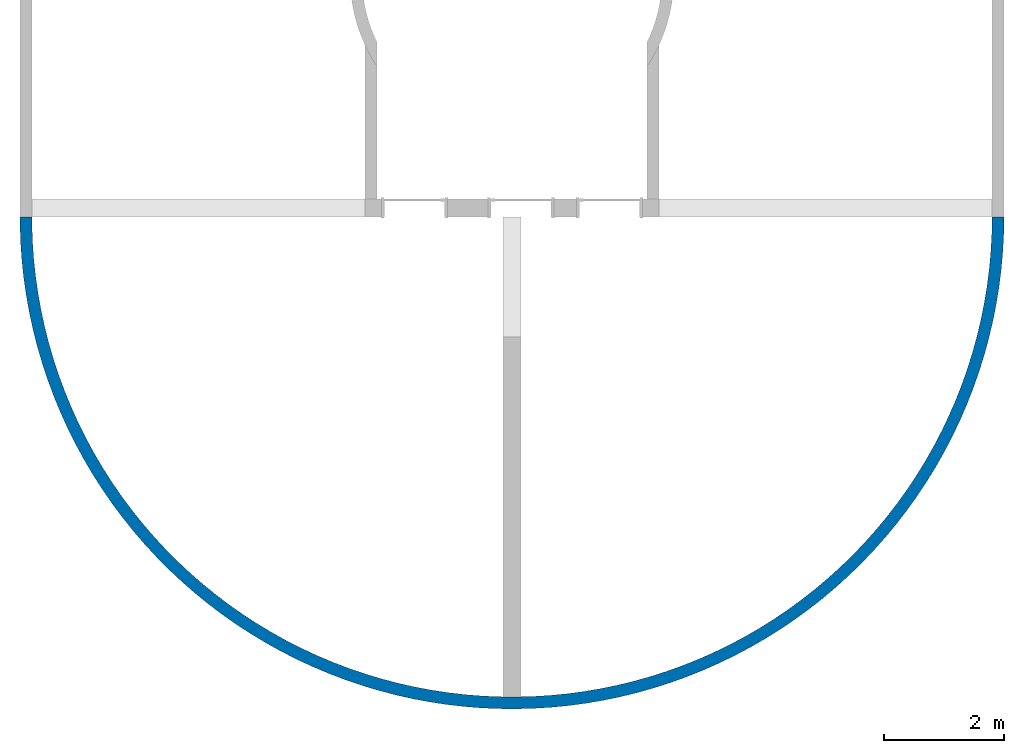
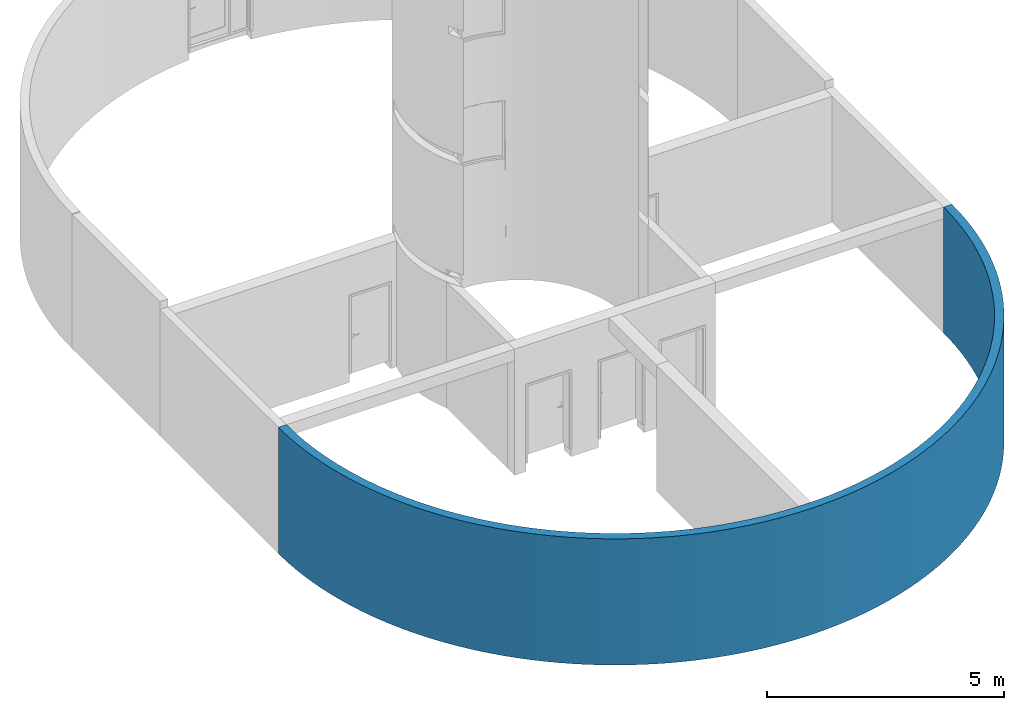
# One storey, part 3 of 8: 1 wall.
"""IFC4 building model written with IfcOpenShell, lengths in millimetres."""

from ifc_helpers import new_model, entity, si_unit, converted_unit, derived_unit, direction, frame, origin_with_axes, place, context, subcontext, project, spatial, polygons, material, constituent, constituent_set, type_object, element, save


model = new_model("IFC4")

# Units and contexts
model_context = context("Model", 3, precision=0.01, world=origin_with_axes(), true_north=direction((0.0, 1.0)))
body_context = subcontext(model_context, "Body", "Model", "MODEL_VIEW")
ifc_project = project(units=[si_unit("LENGTHUNIT", "METRE", prefix="MILLI"), si_unit("AREAUNIT", "SQUARE_METRE"), si_unit("VOLUMEUNIT", "CUBIC_METRE"), converted_unit("PLANEANGLEUNIT", "DEGREE", entity("IfcPlaneAngleMeasure", 0.0174532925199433), si_unit("PLANEANGLEUNIT", "RADIAN"), dimensions=[0, 0, 0, 0, 0, 0, 0]), converted_unit("TIMEUNIT", "Year", entity("IfcTimeMeasure", 31557600.0), si_unit("TIMEUNIT", "SECOND"), dimensions=[0, 0, 1, 0, 0, 0, 0]), si_unit("MASSUNIT", "GRAM", prefix="KILO"), si_unit("THERMODYNAMICTEMPERATUREUNIT", "DEGREE_CELSIUS"), si_unit("LUMINOUSINTENSITYUNIT", "LUMEN"), si_unit("ENERGYUNIT", "JOULE", prefix="MEGA"), derived_unit("THERMALCONDUCTANCEUNIT", [(si_unit("POWERUNIT", "WATT"), 1), (si_unit("LENGTHUNIT", "METRE"), -1), (si_unit("THERMODYNAMICTEMPERATUREUNIT", "KELVIN"), -1)]), derived_unit("SPECIFICHEATCAPACITYUNIT", [(si_unit("ENERGYUNIT", "JOULE"), 1), (si_unit("MASSUNIT", "GRAM", prefix="KILO"), -1), (si_unit("THERMODYNAMICTEMPERATUREUNIT", "KELVIN"), -1)]), derived_unit("MASSDENSITYUNIT", [(si_unit("MASSUNIT", "GRAM", prefix="KILO"), 1), (si_unit("VOLUMEUNIT", "CUBIC_METRE"), -1)])], contexts=[model_context])

# Site, building, storey
site_placement = place(None, origin_with_axes())
site = spatial("IfcSite", under=ifc_project, at=site_placement, Name="Exteriér", CompositionType="ELEMENT")
building_placement = place(site_placement, origin_with_axes())
building = spatial("IfcBuilding", under=site, at=building_placement, Name="Univerzitní lezecké centrum", CompositionType="ELEMENT")
storey_placement = place(building_placement, frame((0.0, 0.0, -3350.0), z_axis=(0.0, 0.0, 1.0), x_axis=(1.0, 0.0, 0.0)))
storey = spatial("IfcBuildingStorey", under=building, at=storey_placement, Name="1.PP", CompositionType="ELEMENT", Elevation=-3350.0)

# Wall
ifc_material = material(Name="Beton vyztužený - vnější svislé kce")
ifc_constituent = constituent(ifc_material, Name="Beton vyztužený - vnější svislé kce")
ifc_constituent_set = constituent_set(constituents=[ifc_constituent], Name="!Vnější betonová stěna 200 mm")
wall_type = type_object("IfcWallType", Name="!Vnější betonová stěna 200 mm 200", PredefinedType="NOTDEFINED")
wall_placement = place(storey_placement, frame((-5550.148351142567, -299.999999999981, -220.0000000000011), z_axis=(0.0, 0.0, 1.0), x_axis=(0.0, -1.0, 0.0)))
element("IfcWall", 1, at=wall_placement, inside=storey, type_object=wall_type, material=ifc_constituent_set, Name="St02", PredefinedType="NOTDEFINED", context=body_context, shape_type="Tessellation", body=[
    polygons([(0.0, -199.9999999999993, 0.0), (145.5579959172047, -199.9999999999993, 0.0), (145.5579959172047, -199.9999999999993, 3250.000000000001), (0.0, -199.9999999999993, 3250.000000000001), (0.0, 0.0, 0.0), (142.0078008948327, 0.0, 0.0), (436.4905859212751, -189.6680701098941, 0.0), (436.4905859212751, -189.6680701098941, 3250.000000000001), (142.0078008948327, 0.0, 3250.000000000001), (0.0, 0.0, 3250.000000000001), (425.844474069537, 10.07993160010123, 0.0), (726.8732015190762, -169.0172284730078, 0.0), (726.8732015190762, -169.0172284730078, 3250.000000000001), (425.844474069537, 10.07993160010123, 3250.000000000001), (709.1445868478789, 30.227094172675, 0.0), (1016.339963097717, -138.0734949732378, 0.0), (1016.339963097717, -138.0734949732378, 3250.000000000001), (709.1445868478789, 30.227094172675, 3250.000000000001), (991.5511835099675, 60.41610246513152, 0.0), (1304.52614501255, -96.87585845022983, 0.0), (1304.52614501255, -96.87585845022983, 3250.000000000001), (991.5511835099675, 60.41610246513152, 3250.000000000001), (1272.708434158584, 100.6089185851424, 0.0), (1591.068635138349, -45.47622757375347, 0.0), (1591.068635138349, -45.47622757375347, 3250.000000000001), (1272.708434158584, 100.6089185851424, 3250.000000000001), (1552.262083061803, 150.7548999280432, 0.0), (1875.606392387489, 16.06063456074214, 0.0), (1875.606392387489, 16.06063456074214, 3250.000000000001), (1552.262083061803, 150.7548999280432, 3250.000000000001), (1829.859895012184, 210.7908629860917, 0.0), (2157.780901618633, 87.65719203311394, 0.0), (2157.780901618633, 87.65719203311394, 3250.000000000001), (1829.859895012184, 210.7908629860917, 3250.000000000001), (2105.152099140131, 280.6411629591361, 0.0), (2437.236625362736, 169.2232337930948, 0.0), (2437.236625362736, 169.2232337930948, 3250.000000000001), (2105.152099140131, 280.6411629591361, 3250.000000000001), (2377.791829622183, 360.2177890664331, 0.0), (2713.621451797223, 260.6559873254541, 0.0), (2713.621451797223, 260.6559873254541, 3250.000000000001), (2377.791829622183, 360.2177890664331, 3250.000000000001), (2647.435562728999, 449.4204754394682, 0.0), (2986.587138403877, 361.8402481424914, 0.0), (2986.587138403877, 361.8402481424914, 3250.000000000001), (2647.435562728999, 449.4204754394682, 3250.000000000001), (2913.743549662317, 548.1368274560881, 0.0), (3255.789750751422, 472.6485249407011, 0.0), (3255.789750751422, 472.6485249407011, 3250.000000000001), (2913.743549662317, 548.1368274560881, 3250.000000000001), (3176.380244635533, 656.2424633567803, 0.0), (3520.89009584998, 592.9412002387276, 0.0), (3520.89009584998, 592.9412002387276, 3250.000000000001), (3176.380244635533, 656.2424633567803, 3250.000000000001), (3435.014727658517, 773.6011709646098, 0.0), (3781.554149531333, 722.5667062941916, 0.0), (3781.554149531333, 722.5667062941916, 3250.000000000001), (3435.014727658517, 773.6011709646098, 3250.000000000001), (3689.321121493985, 900.065079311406, 0.0), (4037.453477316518, 861.3617160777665, 0.0), (4037.453477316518, 861.3617160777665, 3250.000000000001), (3689.321121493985, 900.065079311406, 3250.000000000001), (3938.979002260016, 1035.474844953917, 0.0), (4288.265648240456, 1009.151349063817, 0.0), (4288.265648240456, 1009.151349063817, 3250.000000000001), (3938.979002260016, 1035.474844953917, 3250.000000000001), (4183.673803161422, 1179.659852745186, 0.0), (4533.674641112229, 1165.74939157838, 0.0), (4533.674641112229, 1165.74939157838, 3250.000000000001), (4183.673803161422, 1179.659852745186, 3250.000000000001), (4423.0972108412, 1332.438430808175, 0.0), (4773.371242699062, 1330.958531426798, 0.0), (4773.371242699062, 1330.958531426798, 3250.000000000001), (4423.0972108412, 1332.438430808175, 3250.000000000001), (4656.947553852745, 1493.618079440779, 0.0), (5007.053437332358, 1504.5706065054, 0.0), (5007.053437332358, 1504.5706065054, 3250.000000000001), (4656.947553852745, 1493.618079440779, 3250.000000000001), (4884.930182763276, 1662.995713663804, 0.0), (5234.426787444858, 1686.366867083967, 0.0), (5234.426787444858, 1686.366867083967, 3250.000000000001), (4884.930182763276, 1662.995713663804, 3250.000000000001), (5106.757841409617, 1840.357919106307, 0.0), (5455.204804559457, 1876.118251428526, 0.0), (5455.204804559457, 1876.118251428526, 3250.000000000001), (5106.757841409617, 1840.357919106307, 3250.000000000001), (5322.151028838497, 2025.481220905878, 0.0), (5669.109310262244, 2073.585674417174, 0.0), (5669.109310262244, 2073.585674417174, 3250.000000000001), (5322.151028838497, 2025.481220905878, 3250.000000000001), (5530.83835147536, 2218.132365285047, 0.0), (5875.870786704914, 2278.520328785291, 0.0), (5875.870786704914, 2278.520328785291, 3250.000000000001), (5530.83835147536, 2218.132365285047, 3250.000000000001), (5732.556865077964, 2418.068613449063, 0.0), (6075.228716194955, 2490.663998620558, 0.0), (6075.228716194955, 2490.663998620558, 3250.000000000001), (5732.556865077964, 2418.068613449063, 3250.000000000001), (5927.052406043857, 2625.03804743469, 0.0), (6266.931909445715, 2709.749384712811, 0.0), (6266.931909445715, 2709.749384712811, 3250.000000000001), (5927.052406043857, 2625.03804743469, 3250.000000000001), (6114.079911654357, 2838.779887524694, 0.0), (6450.738822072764, 2935.500441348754, 0.0), (6450.738822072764, 2935.500441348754, 3250.000000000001), (6114.079911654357, 2838.779887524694, 3250.000000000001), (6293.403728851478, 3059.024820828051, 0.0), (6626.417858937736, 3167.632724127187, 0.0), (6626.417858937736, 3167.632724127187, 3250.000000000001), (6293.403728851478, 3059.024820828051, 3250.000000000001), (6464.797911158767, 3285.495340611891, 0.0), (6793.747665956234, 3405.853748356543, 0.0), (6793.747665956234, 3405.853748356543, 3250.000000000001), (6464.797911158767, 3285.495340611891, 3250.000000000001), (6628.046503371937, 3517.906095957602, 0.0), (6952.517409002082, 3649.863357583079, 0.0), (6952.517409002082, 3649.863357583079, 3250.000000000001), (6628.046503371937, 3517.906095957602, 3250.000000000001), (6782.943813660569, 3755.964251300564, 0.0), (7102.527039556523, 3899.354101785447, 0.0), (7102.527039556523, 3899.354101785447, 3250.000000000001), (6782.943813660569, 3755.964251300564, 3250.000000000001), (6929.294672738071, 3999.369855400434, 0.0), (7243.587546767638, 4154.011624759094, 0.0), (7243.587546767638, 4154.011624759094, 3250.000000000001), (6929.294672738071, 3999.369855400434, 3250.000000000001), (7066.914679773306, 4247.816219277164, 0.0), (7375.521195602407, 4413.515060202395, 0.0), (7375.521195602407, 4413.515060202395, 3250.000000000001), (7066.914679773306, 4247.816219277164, 3250.000000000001), (7195.630434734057, 4500.990302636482, 0.0), (7498.161750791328, 4677.53743600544, 0.0), (7498.161750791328, 4677.53743600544, 3250.000000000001), (7195.630434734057, 4500.990302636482, 3250.000000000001), (7315.27975686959, 4758.573108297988, 0.0), (7611.354686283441, 4945.746086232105, 0.0), (7611.354686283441, 4945.746086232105, 3250.000000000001), (7315.27975686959, 4758.573108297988, 3250.000000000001), (7425.711889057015, 5020.240084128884, 0.0), (7714.957379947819, 5217.803070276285, 0.0), (7714.957379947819, 5217.803070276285, 3250.000000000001), (7425.711889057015, 5020.240084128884, 3250.000000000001), (7526.787687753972, 5285.661531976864, 0.0), (7808.839293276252, 5493.365598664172, 0.0), (7808.839293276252, 5493.365598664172, 3250.000000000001), (7526.787687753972, 5285.661531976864, 3250.000000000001), (7618.379798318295, 5554.503023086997, 0.0), (7892.882135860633, 5772.086464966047, 0.0), (7892.882135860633, 5772.086464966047, 3250.000000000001), (7618.379798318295, 5554.503023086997, 3250.000000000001), (7700.372815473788, 5826.425819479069, 0.0), (7966.980014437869, 6053.614483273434, 0.0), (7966.980014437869, 6053.614483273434, 3250.000000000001), (7700.372815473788, 5826.425819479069, 3250.000000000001), (7772.663428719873, 6101.087300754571, 0.0), (8031.039566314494, 6337.594930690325, 0.0), (8031.039566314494, 6337.594930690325, 3250.000000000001), (7772.663428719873, 6101.087300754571, 3250.000000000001), (7835.160552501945, 6378.141395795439, 0.0), (8084.980077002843, 6623.669994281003, 0.0), (8084.980077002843, 6623.669994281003, 3250.000000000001), (7835.160552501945, 6378.141395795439, 3250.000000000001), (7887.785440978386, 6657.239018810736, 0.0), (8128.733581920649, 6911.479221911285, 0.0), (8128.733581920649, 6911.479221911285, 3250.000000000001), (7887.785440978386, 6657.239018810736, 3250.000000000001), (7930.471787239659, 6938.02850918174, 0.0), (8162.244952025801, 7200.659976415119, 0.0), (8162.244952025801, 7200.659976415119, 3250.000000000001), (7930.471787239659, 6938.02850918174, 3250.000000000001), (7963.165806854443, 7220.156074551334, 0.0), (8185.471963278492, 7490.847892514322, 0.0), (8185.471963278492, 7490.847892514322, 3250.000000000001), (7963.165806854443, 7220.156074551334, 3250.000000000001), (7985.826305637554, 7503.266236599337, 0.0), (8198.385349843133, 7781.677335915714, 0.0), (8198.385349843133, 7781.677335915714, 3250.000000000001), (7985.826305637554, 7503.266236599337, 3250.000000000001), (7998.424731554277, 7787.002278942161, 0.0), (8200.968840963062, 8072.781864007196, 0.0), (8200.968840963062, 8072.781864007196, 3250.000000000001), (7998.424731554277, 7787.002278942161, 3250.000000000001), (8000.945210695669, 8071.006696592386, 0.0), (8193.219181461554, 8363.794687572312, 0.0), (8193.219181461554, 8363.794687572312, 3250.000000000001), (8000.945210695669, 8071.006696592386, 3250.000000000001), (7993.384567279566, 8354.921646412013, 0.0), (8175.146135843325, 8654.34913294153, 0.0), (8175.146135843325, 8654.34913294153, 3250.000000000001), (7993.384567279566, 8354.921646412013, 3250.000000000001), (7975.752327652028, 8638.389397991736, 0.0), (8146.77247599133, 8944.079103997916, 0.0), (8146.77247599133, 8944.079103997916, 3250.000000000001), (7975.752327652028, 8638.389397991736, 3250.000000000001), (7948.070708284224, 8921.05278438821, 0.0), (8108.133952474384, 9232.619543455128, 0.0), (8108.133952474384, 9232.619543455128, 3250.000000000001), (7948.070708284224, 8921.05278438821, 3250.000000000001), (7910.374587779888, 9202.555652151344, 0.0), (8059.279249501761, 9519.606892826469, 0.0), (8059.279249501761, 9519.606892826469, 3250.000000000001), (7910.374587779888, 9202.555652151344, 3250.000000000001), (7862.71146292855, 9482.543310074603, 0.0), (8000.269923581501, 9804.679550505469, 0.0), (8000.269923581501, 9804.679550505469, 3250.000000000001), (7862.71146292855, 9482.543310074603, 3250.000000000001), (7805.141388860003, 9760.662976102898, 0.0), (7931.180325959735, 10087.47832738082, 0.0), (7931.180325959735, 10087.47832738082, 3250.000000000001), (7805.141388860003, 9760.662976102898, 3250.000000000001), (7737.736903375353, 10036.56422183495, 0.0), (7852.097508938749, 10367.64689941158, 0.0), (7852.097508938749, 10367.64689941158, 3250.000000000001), (7737.736903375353, 10036.56422183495, 3250.000000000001), (7660.582935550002, 10309.89941406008, 0.0), (7763.121116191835, 10644.83225659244, 0.0), (7763.121116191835, 10644.83225659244, 3250.000000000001), (7660.582935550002, 10309.89941406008, 3250.000000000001), (7573.776698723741, 10580.32415277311, 0.0), (7664.363257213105, 10918.68514774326, 0.0), (7664.363257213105, 10918.68514774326, 3250.000000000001), (7573.776698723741, 10580.32415277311, 3250.000000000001), (7477.427568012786, 10847.49770511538, 0.0), (7555.948366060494, 11188.86052056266, 0.0), (7555.948366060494, 11188.86052056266, 3250.000000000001), (7477.427568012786, 10847.49770511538, 3250.000000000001), (7371.656942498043, 11111.08343469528, 0.0), (7438.013044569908, 11455.01795639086, 0.0), (7438.013044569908, 11455.01795639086, 3250.000000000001), (7371.656942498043, 11111.08343469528, 3250.000000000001), (7256.598092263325, 11370.74922574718, 0.0), (7310.70589023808, 11716.82209913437, 0.0), (7310.70589023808, 11716.82209913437, 3250.000000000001), (7256.598092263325, 11370.74922574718, 3250.000000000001), (7132.395990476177, 11626.16790159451, 0.0), (7174.187308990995, 11973.94307781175, 0.0), (7174.187308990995, 11973.94307781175, 3250.000000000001), (7132.395990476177, 11626.16790159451, 3250.000000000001), (6999.207130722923, 11877.01763688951, 0.0), (7028.629313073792, 12226.05692218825, 0.0), (7028.629313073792, 12226.05692218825, 3250.000000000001), (6999.207130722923, 11877.01763688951, 3250.000000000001), (6857.19932982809, 12122.98236311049, 0.0), (6874.215304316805, 12472.84597097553, 0.0), (6874.215304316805, 12472.84597097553, 3250.000000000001), (6857.19932982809, 12122.98236311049, 3250.000000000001), (6706.551516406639, 12363.75216680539, 0.0), (6711.139843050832, 12713.99927208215, 0.0), (6711.139843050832, 12713.99927208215, 3250.000000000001), (6706.551516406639, 12363.75216680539, 3250.000000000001), (6547.453505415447, 12599.02368008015, 0.0), (6539.608402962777, 12949.21297441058, 0.0), (6539.608402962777, 12949.21297441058, 3250.000000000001), (6547.453505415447, 12599.02368008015, 3250.000000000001), (6380.105758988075, 12828.50046283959, 0.0), (6359.837112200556, 13178.19071070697, 0.0), (6359.837112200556, 13178.19071070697, 3250.000000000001), (6380.105758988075, 12828.50046283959, 3250.000000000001), (6204.719133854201, 13051.89337629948, 0.0), (6172.052481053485, 13400.64397098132, 0.0), (6172.052481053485, 13400.64397098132, 3250.000000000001), (6204.719133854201, 13051.89337629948, 3250.000000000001), (6021.514615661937, 13268.92094729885, 0.0), (5976.49111655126, 13616.29246602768, 0.0), (5976.49111655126, 13616.29246602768, 3250.000000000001), (6021.514615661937, 13268.92094729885, 3250.000000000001), (5830.723040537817, 13479.30972295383, 0.0), (5773.399424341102, 13824.86448058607, 0.0), (5773.399424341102, 13824.86448058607, 3250.000000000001), (5830.723040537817, 13479.30972295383, 3250.000000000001), (5632.584804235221, 13682.79461520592, 0.0), (5563.033298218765, 14026.09721570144, 0.0), (5563.033298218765, 14026.09721570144, 3250.000000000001), (5632.584804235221, 13682.79461520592, 3250.000000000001), (5427.349559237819, 13879.11923483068, 0.0), (5345.657797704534, 14219.73711984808, 0.0), (5345.657797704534, 14219.73711984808, 3250.000000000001), (5427.349559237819, 13879.11923483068, 3250.000000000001), (5215.275900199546, 14068.03621448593, 0.0), (5121.546814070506, 14405.54020840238, 0.0), (5121.546814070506, 14405.54020840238, 3250.000000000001), (5215.275900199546, 14068.03621448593, 3250.000000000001), (4996.631038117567, 14249.30752039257, 0.0), (4890.982725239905, 14583.27237106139, 0.0), (4890.982725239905, 14583.27237106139, 3250.000000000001), (4996.631038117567, 14249.30752039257, 3250.000000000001), (4771.690463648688, 14422.70475225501, 0.0), (4654.256039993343, 14752.70966681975, 0.0), (4654.256039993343, 14752.70966681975, 3250.000000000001), (4771.690463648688, 14422.70475225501, 3250.000000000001), (4540.737599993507, 14588.00943104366, 0.0), (4411.665031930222, 14913.6386061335, 0.0), (4411.665031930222, 14913.6386061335, 3250.000000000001), (4540.737599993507, 14588.00943104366, 3250.000000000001), (4304.063445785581, 14745.01327427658, 0.0), (4163.515363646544, 15065.85641991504, 0.0), (4163.515363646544, 15065.85641991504, 3250.000000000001), (4304.063445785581, 14745.01327427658, 3250.000000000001), (4061.966208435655, 14893.5184584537, 0.0), (3910.119701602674, 15209.17131502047, 0.0), (3910.119701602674, 15209.17131502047, 3250.000000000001), (4061.966208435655, 14893.5184584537, 3250.000000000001), (3814.750928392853, 15033.33786831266, 0.0), (3651.797322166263, 15343.4027159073, 0.0), (3651.797322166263, 15343.4027159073, 3250.000000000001), (3814.750928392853, 15033.33786831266, 3250.000000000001), (3562.729094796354, 15164.29533259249, 0.0), (3388.873709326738, 15468.38149215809, 0.0), (3388.873709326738, 15468.38149215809, 3250.000000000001), (3562.729094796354, 15164.29533259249, 3250.000000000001), (3306.218253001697, 15286.22584600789, 0.0), (3121.680144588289, 15583.95017158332, 0.0), (3121.680144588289, 15583.95017158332, 3250.000000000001), (3306.218253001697, 15286.22584600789, 3250.000000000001), (3045.54160447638, 15398.97577715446, 0.0), (2850.553289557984, 15689.96313863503, 0.0), (2850.553289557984, 15689.96313863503, 3250.000000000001), (3045.54160447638, 15398.97577715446, 3250.000000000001), (2781.027599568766, 15502.40306208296, 0.0), (2575.834761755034, 15786.28681788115, 0.0), (2575.834761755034, 15786.28681788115, 3250.000000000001), (2781.027599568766, 15502.40306208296, 3250.000000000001), (2513.009523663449, 15596.37738329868, 0.0), (2297.870704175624, 15872.7998423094, 0.0), (2297.870704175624, 15872.7998423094, 3250.000000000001), (2513.009523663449, 15596.37738329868, 3250.000000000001), (2241.825077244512, 15680.78033396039, 0.0), (2017.011349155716, 15949.39320624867, 0.0), (2017.011349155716, 15949.39320624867, 3250.000000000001), (2241.825077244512, 15680.78033396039, 3250.000000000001), (1967.815950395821, 15755.50556707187, 0.0), (1733.610577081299, 16015.97040271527, 0.0), (1733.610577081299, 16015.97040271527, 3250.000000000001), (1967.815950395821, 15755.50556707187, 3250.000000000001), (1691.327392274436, 15820.45892947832, 0.0), (1448.025470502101, 16072.4475450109, 0.0), (1448.025470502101, 16072.4475450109, 3250.000000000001), (1691.327392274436, 15820.45892947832, 3250.000000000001), (1412.70777609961, 15875.55858049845, 0.0), (1160.615864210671, 16118.75347241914, 0.0), (1160.615864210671, 16118.75347241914, 3250.000000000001), (1412.70777609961, 15875.55858049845, 3250.000000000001), (1132.308160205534, 15920.73509504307, 0.0), (871.7438918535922, 16154.82983986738, 0.0), (871.7438918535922, 16154.82983986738, 3250.000000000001), (1132.308160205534, 15920.73509504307, 3250.000000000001), (850.4818457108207, 15955.93155109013, 0.0), (581.7735296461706, 16180.63119144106, 0.0), (581.7735296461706, 16180.63119144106, 3250.000000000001), (850.4818457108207, 15955.93155109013, 3250.000000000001), (567.5839313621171, 15981.10360140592, 0.0), (291.0701377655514, 16196.12501765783, 0.0), (291.0701377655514, 16196.12501765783, 3250.000000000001), (567.5839313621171, 15981.10360140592, 3250.000000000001), (283.9708661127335, 15996.21952942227, 0.0), (0.0, 16200.0, 0.0), (0.0, 16200.0, 3250.000000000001), (283.9708661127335, 15996.21952942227, 3250.000000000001), (0.0, 16000.0, 0.0), (0.0, 16000.0, 3250.000000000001)], [[[1, 2, 3, 4]], [[5, 6, 2, 1]], [[2, 7, 8, 3]], [[4, 3, 9, 10]], [[5, 1, 4, 10]], [[10, 9, 6, 5]], [[6, 11, 7, 2]], [[7, 12, 13, 8]], [[3, 8, 14, 9]], [[9, 14, 11, 6]], [[11, 15, 12, 7]], [[12, 16, 17, 13]], [[8, 13, 18, 14]], [[14, 18, 15, 11]], [[15, 19, 16, 12]], [[16, 20, 21, 17]], [[13, 17, 22, 18]], [[18, 22, 19, 15]], [[19, 23, 20, 16]], [[20, 24, 25, 21]], [[17, 21, 26, 22]], [[22, 26, 23, 19]], [[23, 27, 24, 20]], [[24, 28, 29, 25]], [[21, 25, 30, 26]], [[26, 30, 27, 23]], [[27, 31, 28, 24]], [[28, 32, 33, 29]], [[25, 29, 34, 30]], [[30, 34, 31, 27]], [[31, 35, 32, 28]], [[32, 36, 37, 33]], [[29, 33, 38, 34]], [[34, 38, 35, 31]], [[35, 39, 36, 32]], [[36, 40, 41, 37]], [[33, 37, 42, 38]], [[38, 42, 39, 35]], [[39, 43, 40, 36]], [[40, 44, 45, 41]], [[37, 41, 46, 42]], [[42, 46, 43, 39]], [[43, 47, 44, 40]], [[44, 48, 49, 45]], [[41, 45, 50, 46]], [[46, 50, 47, 43]], [[47, 51, 48, 44]], [[48, 52, 53, 49]], [[45, 49, 54, 50]], [[50, 54, 51, 47]], [[51, 55, 52, 48]], [[52, 56, 57, 53]], [[49, 53, 58, 54]], [[54, 58, 55, 51]], [[55, 59, 56, 52]], [[56, 60, 61, 57]], [[53, 57, 62, 58]], [[58, 62, 59, 55]], [[59, 63, 60, 56]], [[60, 64, 65, 61]], [[57, 61, 66, 62]], [[62, 66, 63, 59]], [[63, 67, 64, 60]], [[64, 68, 69, 65]], [[61, 65, 70, 66]], [[66, 70, 67, 63]], [[67, 71, 68, 64]], [[68, 72, 73, 69]], [[65, 69, 74, 70]], [[70, 74, 71, 67]], [[71, 75, 72, 68]], [[72, 76, 77, 73]], [[69, 73, 78, 74]], [[74, 78, 75, 71]], [[75, 79, 76, 72]], [[76, 80, 81, 77]], [[73, 77, 82, 78]], [[78, 82, 79, 75]], [[79, 83, 80, 76]], [[80, 84, 85, 81]], [[77, 81, 86, 82]], [[82, 86, 83, 79]], [[83, 87, 84, 80]], [[84, 88, 89, 85]], [[81, 85, 90, 86]], [[86, 90, 87, 83]], [[87, 91, 88, 84]], [[88, 92, 93, 89]], [[85, 89, 94, 90]], [[90, 94, 91, 87]], [[91, 95, 92, 88]], [[92, 96, 97, 93]], [[89, 93, 98, 94]], [[94, 98, 95, 91]], [[95, 99, 96, 92]], [[96, 100, 101, 97]], [[93, 97, 102, 98]], [[98, 102, 99, 95]], [[99, 103, 100, 96]], [[100, 104, 105, 101]], [[97, 101, 106, 102]], [[102, 106, 103, 99]], [[103, 107, 104, 100]], [[104, 108, 109, 105]], [[101, 105, 110, 106]], [[106, 110, 107, 103]], [[107, 111, 108, 104]], [[108, 112, 113, 109]], [[105, 109, 114, 110]], [[110, 114, 111, 107]], [[111, 115, 112, 108]], [[112, 116, 117, 113]], [[109, 113, 118, 114]], [[114, 118, 115, 111]], [[115, 119, 116, 112]], [[116, 120, 121, 117]], [[113, 117, 122, 118]], [[118, 122, 119, 115]], [[119, 123, 120, 116]], [[120, 124, 125, 121]], [[117, 121, 126, 122]], [[122, 126, 123, 119]], [[123, 127, 124, 120]], [[124, 128, 129, 125]], [[121, 125, 130, 126]], [[126, 130, 127, 123]], [[127, 131, 128, 124]], [[128, 132, 133, 129]], [[125, 129, 134, 130]], [[130, 134, 131, 127]], [[131, 135, 132, 128]], [[132, 136, 137, 133]], [[129, 133, 138, 134]], [[134, 138, 135, 131]], [[135, 139, 136, 132]], [[136, 140, 141, 137]], [[133, 137, 142, 138]], [[138, 142, 139, 135]], [[139, 143, 140, 136]], [[140, 144, 145, 141]], [[137, 141, 146, 142]], [[142, 146, 143, 139]], [[143, 147, 144, 140]], [[144, 148, 149, 145]], [[141, 145, 150, 146]], [[146, 150, 147, 143]], [[147, 151, 148, 144]], [[148, 152, 153, 149]], [[145, 149, 154, 150]], [[150, 154, 151, 147]], [[151, 155, 152, 148]], [[152, 156, 157, 153]], [[149, 153, 158, 154]], [[154, 158, 155, 151]], [[155, 159, 156, 152]], [[156, 160, 161, 157]], [[153, 157, 162, 158]], [[158, 162, 159, 155]], [[159, 163, 160, 156]], [[160, 164, 165, 161]], [[157, 161, 166, 162]], [[162, 166, 163, 159]], [[163, 167, 164, 160]], [[164, 168, 169, 165]], [[161, 165, 170, 166]], [[166, 170, 167, 163]], [[167, 171, 168, 164]], [[168, 172, 173, 169]], [[165, 169, 174, 170]], [[170, 174, 171, 167]], [[171, 175, 172, 168]], [[172, 176, 177, 173]], [[169, 173, 178, 174]], [[174, 178, 175, 171]], [[175, 179, 176, 172]], [[176, 180, 181, 177]], [[173, 177, 182, 178]], [[178, 182, 179, 175]], [[179, 183, 180, 176]], [[180, 184, 185, 181]], [[177, 181, 186, 182]], [[182, 186, 183, 179]], [[183, 187, 184, 180]], [[184, 188, 189, 185]], [[181, 185, 190, 186]], [[186, 190, 187, 183]], [[187, 191, 188, 184]], [[188, 192, 193, 189]], [[185, 189, 194, 190]], [[190, 194, 191, 187]], [[191, 195, 192, 188]], [[192, 196, 197, 193]], [[189, 193, 198, 194]], [[194, 198, 195, 191]], [[195, 199, 196, 192]], [[196, 200, 201, 197]], [[193, 197, 202, 198]], [[198, 202, 199, 195]], [[199, 203, 200, 196]], [[200, 204, 205, 201]], [[197, 201, 206, 202]], [[202, 206, 203, 199]], [[203, 207, 204, 200]], [[204, 208, 209, 205]], [[201, 205, 210, 206]], [[206, 210, 207, 203]], [[207, 211, 208, 204]], [[208, 212, 213, 209]], [[205, 209, 214, 210]], [[210, 214, 211, 207]], [[211, 215, 212, 208]], [[212, 216, 217, 213]], [[209, 213, 218, 214]], [[214, 218, 215, 211]], [[215, 219, 216, 212]], [[216, 220, 221, 217]], [[213, 217, 222, 218]], [[218, 222, 219, 215]], [[219, 223, 220, 216]], [[220, 224, 225, 221]], [[217, 221, 226, 222]], [[222, 226, 223, 219]], [[223, 227, 224, 220]], [[224, 228, 229, 225]], [[221, 225, 230, 226]], [[226, 230, 227, 223]], [[227, 231, 228, 224]], [[228, 232, 233, 229]], [[225, 229, 234, 230]], [[230, 234, 231, 227]], [[231, 235, 232, 228]], [[232, 236, 237, 233]], [[229, 233, 238, 234]], [[234, 238, 235, 231]], [[235, 239, 236, 232]], [[236, 240, 241, 237]], [[233, 237, 242, 238]], [[238, 242, 239, 235]], [[239, 243, 240, 236]], [[240, 244, 245, 241]], [[237, 241, 246, 242]], [[242, 246, 243, 239]], [[243, 247, 244, 240]], [[244, 248, 249, 245]], [[241, 245, 250, 246]], [[246, 250, 247, 243]], [[247, 251, 248, 244]], [[248, 252, 253, 249]], [[245, 249, 254, 250]], [[250, 254, 251, 247]], [[251, 255, 252, 248]], [[252, 256, 257, 253]], [[249, 253, 258, 254]], [[254, 258, 255, 251]], [[255, 259, 256, 252]], [[256, 260, 261, 257]], [[253, 257, 262, 258]], [[258, 262, 259, 255]], [[259, 263, 260, 256]], [[260, 264, 265, 261]], [[257, 261, 266, 262]], [[262, 266, 263, 259]], [[263, 267, 264, 260]], [[264, 268, 269, 265]], [[261, 265, 270, 266]], [[266, 270, 267, 263]], [[267, 271, 268, 264]], [[268, 272, 273, 269]], [[265, 269, 274, 270]], [[270, 274, 271, 267]], [[271, 275, 272, 268]], [[272, 276, 277, 273]], [[269, 273, 278, 274]], [[274, 278, 275, 271]], [[275, 279, 276, 272]], [[276, 280, 281, 277]], [[273, 277, 282, 278]], [[278, 282, 279, 275]], [[279, 283, 280, 276]], [[280, 284, 285, 281]], [[277, 281, 286, 282]], [[282, 286, 283, 279]], [[283, 287, 284, 280]], [[284, 288, 289, 285]], [[281, 285, 290, 286]], [[286, 290, 287, 283]], [[287, 291, 288, 284]], [[288, 292, 293, 289]], [[285, 289, 294, 290]], [[290, 294, 291, 287]], [[291, 295, 292, 288]], [[292, 296, 297, 293]], [[289, 293, 298, 294]], [[294, 298, 295, 291]], [[295, 299, 296, 292]], [[296, 300, 301, 297]], [[293, 297, 302, 298]], [[298, 302, 299, 295]], [[299, 303, 300, 296]], [[300, 304, 305, 301]], [[297, 301, 306, 302]], [[302, 306, 303, 299]], [[303, 307, 304, 300]], [[304, 308, 309, 305]], [[301, 305, 310, 306]], [[306, 310, 307, 303]], [[307, 311, 308, 304]], [[308, 312, 313, 309]], [[305, 309, 314, 310]], [[310, 314, 311, 307]], [[311, 315, 312, 308]], [[312, 316, 317, 313]], [[309, 313, 318, 314]], [[314, 318, 315, 311]], [[315, 319, 316, 312]], [[316, 320, 321, 317]], [[313, 317, 322, 318]], [[318, 322, 319, 315]], [[319, 323, 320, 316]], [[320, 324, 325, 321]], [[317, 321, 326, 322]], [[322, 326, 323, 319]], [[323, 327, 324, 320]], [[324, 328, 329, 325]], [[321, 325, 330, 326]], [[326, 330, 327, 323]], [[327, 331, 328, 324]], [[328, 332, 333, 329]], [[325, 329, 334, 330]], [[330, 334, 331, 327]], [[331, 335, 332, 328]], [[332, 336, 337, 333]], [[329, 333, 338, 334]], [[334, 338, 335, 331]], [[335, 339, 336, 332]], [[336, 340, 341, 337]], [[333, 337, 342, 338]], [[338, 342, 339, 335]], [[339, 343, 340, 336]], [[340, 344, 345, 341]], [[337, 341, 346, 342]], [[342, 346, 343, 339]], [[343, 347, 344, 340]], [[344, 348, 349, 345]], [[341, 345, 350, 346]], [[346, 350, 347, 343]], [[347, 351, 348, 344]], [[348, 352, 353, 349]], [[345, 349, 354, 350]], [[350, 354, 351, 347]], [[351, 355, 352, 348]], [[352, 356, 357, 353]], [[349, 353, 358, 354]], [[354, 358, 355, 351]], [[355, 359, 356, 352]], [[357, 356, 359, 360]], [[353, 357, 360, 358]], [[358, 360, 359, 355]]], closed=True),
])

save(model, "model.ifc")
